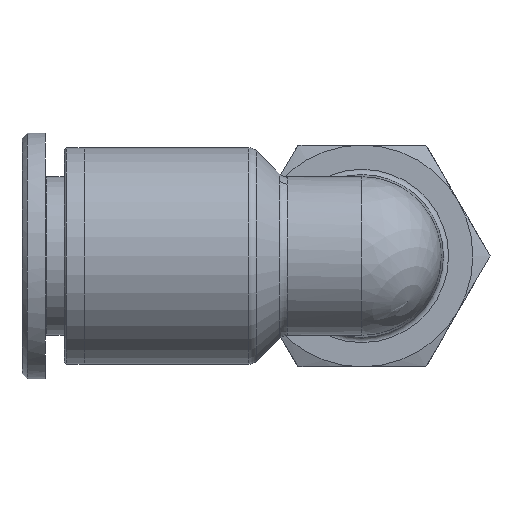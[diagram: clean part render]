
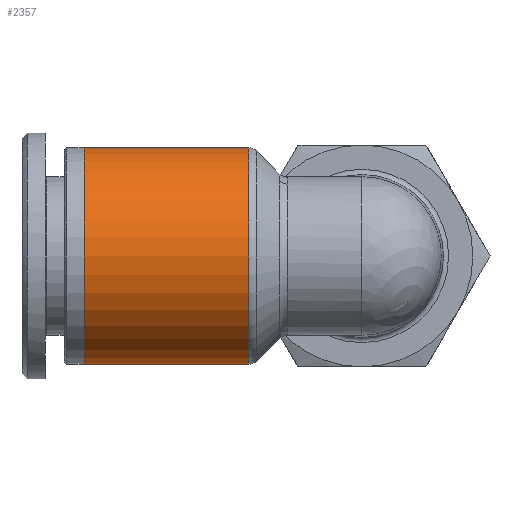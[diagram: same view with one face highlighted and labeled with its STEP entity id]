
A CAD part, left-side view. The second image highlights one B-rep face of the part: STEP entity #2357.
In plain terms, the highlighted cylindrical face has radius 10.25 mm (diameter 20.5 mm), a full revolution.
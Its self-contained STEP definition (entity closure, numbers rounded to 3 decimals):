
#2323=CARTESIAN_POINT('',(-10.709,10.25,0.0));
#2324=VERTEX_POINT('',#2323);
#2325=CARTESIAN_POINT('',(-10.709,0.0,0.0));
#2326=DIRECTION('',(1.0,0.0,0.0));
#2327=DIRECTION('',(0.0,-1.0,0.0));
#2328=AXIS2_PLACEMENT_3D('',#2325,#2326,#2327);
#2329=CIRCLE('',#2328,10.25);
#2330=EDGE_CURVE('',#2324,#2324,#2329,.T.);
#2338=CARTESIAN_POINT('',(-18.3,0.0,0.0));
#2339=DIRECTION('',(1.0,0.0,0.0));
#2340=DIRECTION('',(0.0,1.0,0.0));
#2341=AXIS2_PLACEMENT_3D('',#2338,#2339,#2340);
#2342=CYLINDRICAL_SURFACE('',#2341,10.25);
#2343=CARTESIAN_POINT('',(-26.3,10.25,0.0));
#2344=VERTEX_POINT('',#2343);
#2345=CARTESIAN_POINT('',(-26.3,0.0,0.0));
#2346=DIRECTION('',(1.0,0.0,0.0));
#2347=DIRECTION('',(0.0,1.0,0.0));
#2348=AXIS2_PLACEMENT_3D('',#2345,#2346,#2347);
#2349=CIRCLE('',#2348,10.25);
#2350=EDGE_CURVE('',#2344,#2344,#2349,.T.);
#2351=ORIENTED_EDGE('',*,*,#2350,.T.);
#2352=EDGE_LOOP('',(#2351));
#2353=FACE_OUTER_BOUND('',#2352,.T.);
#2354=ORIENTED_EDGE('',*,*,#2330,.F.);
#2355=EDGE_LOOP('',(#2354));
#2356=FACE_BOUND('',#2355,.T.);
#2357=ADVANCED_FACE('',(#2353,#2356),#2342,.T.);
